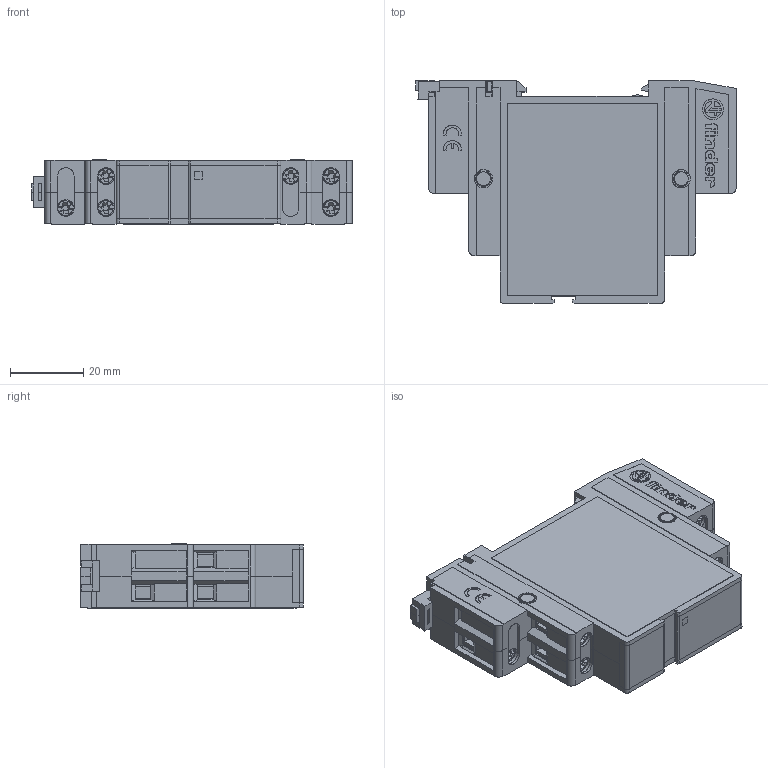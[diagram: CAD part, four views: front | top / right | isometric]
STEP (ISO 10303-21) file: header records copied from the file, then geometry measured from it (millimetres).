
FILE_DESCRIPTION(('STEP AP214'),'2;1');
FILE_NAME('complessivo 72_31---skin-FINITO.stp','2010-04-01T10:10:57',(''),(''),'2007.1.106','THINKDESIGN','');
FILE_SCHEMA(('AUTOMOTIVE_DESIGN'));
Products named in the file (1): None
Bounding box: 87.5 x 60.8 x 17.55 mm (x, y, z)
Surface area: 17187.7 mm2 (no closed solid volume)
Topology: 0 solids, 0 shells, 905 faces, 5032 edges, 5008 vertices
Faces by surface type: plane 765, bspline 77, cylinder 63
Full cylindrical faces by diameter (mm): 1.5 x2, 3 x6, 4 x2, 4.2 x2, 4.5 x6, 5 x4
Entity records: 54615 total; most frequent: CARTESIAN_POINT 17759, DIRECTION 6322, COMPOSITE_CURVE_SEGMENT 5029, TRIMMED_CURVE 4484, VECTOR 4366, LINE 4366, AXIS2_PLACEMENT_3D 978, OUTER_BOUNDARY_CURVE 905
